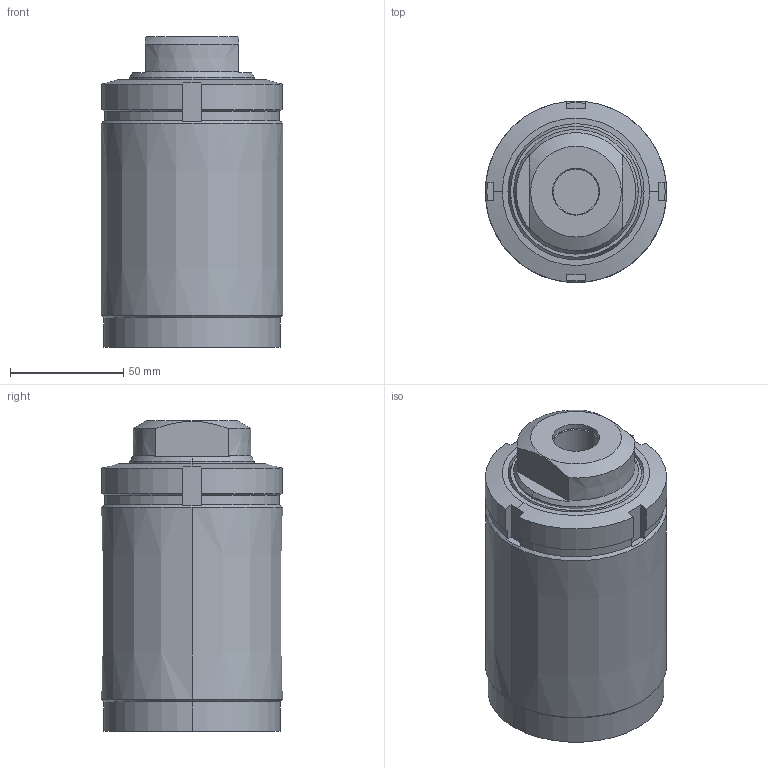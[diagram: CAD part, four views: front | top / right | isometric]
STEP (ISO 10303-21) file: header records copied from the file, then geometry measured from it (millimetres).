
FILE_DESCRIPTION((' '),'2;1');
FILE_NAME( 'TGP80-AL.x_t.stp', '2025-02-10T16:03:59', (' '), ('--- Datakit www.datakit.com---'), ' Datakit CrossCadWare V2024.1 Dec 21 2023', 'Mastercam 2025', ' ');
FILE_SCHEMA(('AUTOMOTIVE_DESIGN { 1 0 10303 214 1 1 1 1 }'));
Length unit declared in the file: millimetre
Products named in the file (1): TGP80-AL
Bounding box: 80 x 80 x 137 mm (x, y, z)
Volume: 697830.1 mm3; surface area: 58018.2 mm2
Topology: 2 solids, 2 shells, 90 faces, 221 edges, 142 vertices
Faces by surface type: plane 32, cone 28, cylinder 26, torus 4
Entity records: 2814 total; most frequent: CARTESIAN_POINT 662, DIRECTION 458, ORIENTED_EDGE 438, EDGE_CURVE 219, AXIS2_PLACEMENT_3D 190, VERTEX_POINT 142, CIRCLE 99, EDGE_LOOP 99
